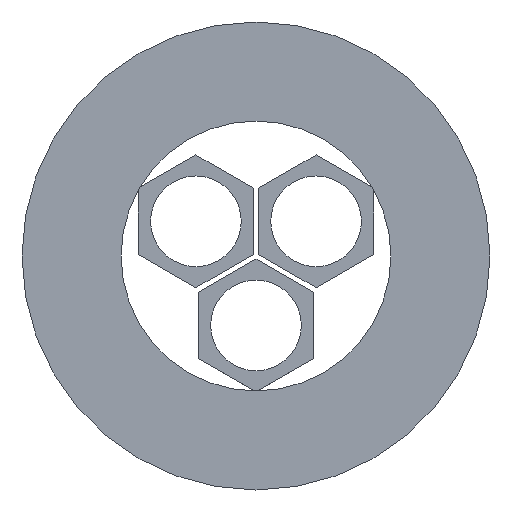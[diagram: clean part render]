
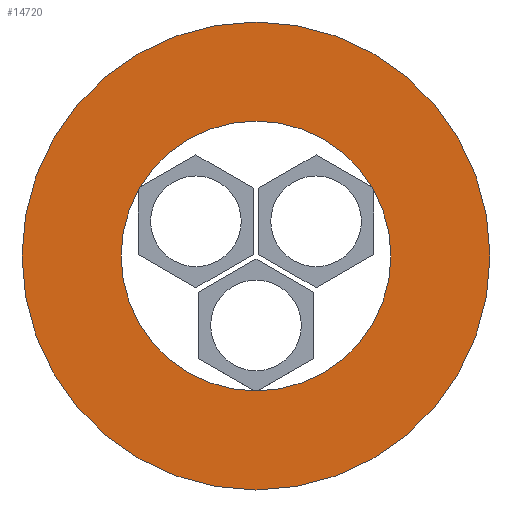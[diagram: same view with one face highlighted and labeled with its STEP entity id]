
A CAD part, front view. The second image highlights one B-rep face of the part: STEP entity #14720.
In plain terms, the highlighted planar face has unit normal (0, -1, 0).
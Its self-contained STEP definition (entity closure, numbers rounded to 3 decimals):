
#12750=CARTESIAN_POINT('',(-417.106,37.173,0.));
#12760=VERTEX_POINT('',#12750);
#12840=CARTESIAN_POINT('',(-391.506,37.173,
0.));
#12850=VERTEX_POINT('',#12840);
#12880=CARTESIAN_POINT('',(-404.306,37.173,0.));
#12890=DIRECTION('',(0.,1.,0.));
#12900=DIRECTION('',(-1.,0.,0.));
#12910=AXIS2_PLACEMENT_3D('',#12880,#12890,#12900);
#12920=CIRCLE('',#12910,12.8);
#12930=EDGE_CURVE('',#12850,#12760,#12920,.T.);
#14340=CARTESIAN_POINT('',(-426.506,37.173,
0.));
#14350=VERTEX_POINT('',#14340);
#14380=CARTESIAN_POINT('',(-404.306,37.173,0.));
#14390=DIRECTION('',(0.,-1.,0.));
#14400=DIRECTION('',(1.,0.,0.));
#14410=AXIS2_PLACEMENT_3D('',#14380,#14390,#14400);
#14420=CIRCLE('',#14410,22.2);
#14430=CARTESIAN_POINT('',(-382.106,37.173,0.));
#14440=VERTEX_POINT('',#14430);
#14450=EDGE_CURVE('',#14350,#14440,#14420,.T.);
#14570=CARTESIAN_POINT('',(-393.206,37.173,
0.));
#14580=DIRECTION('',(0.,-1.,-0.));
#14590=DIRECTION('',(-1.,0.,0.));
#14600=AXIS2_PLACEMENT_3D('',#14570,#14580,#14590);
#14610=PLANE('',#14600);
#14620=EDGE_CURVE('',#14440,#14350,#14420,.T.);
#14630=ORIENTED_EDGE('',*,*,#14620,.T.);
#14640=ORIENTED_EDGE('',*,*,#14450,.T.);
#14650=EDGE_LOOP('',(#14640,#14630));
#14660=FACE_OUTER_BOUND('',#14650,.T.);
#14670=EDGE_CURVE('',#12760,#12850,#12920,.T.);
#14680=ORIENTED_EDGE('',*,*,#14670,.T.);
#14690=ORIENTED_EDGE('',*,*,#12930,.T.);
#14700=EDGE_LOOP('',(#14690,#14680));
#14710=FACE_BOUND('',#14700,.T.);
#14720=ADVANCED_FACE('',(#14660,#14710),#14610,.T.);
